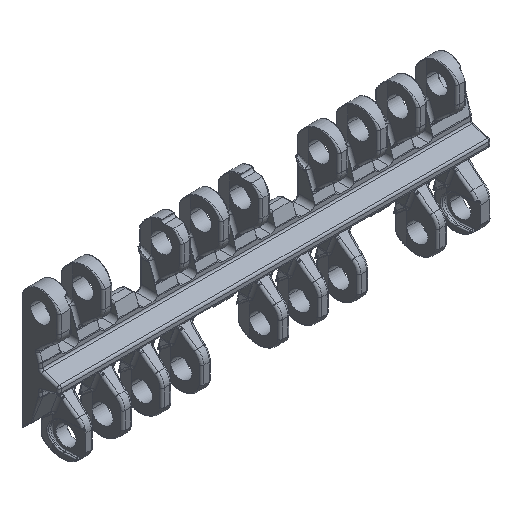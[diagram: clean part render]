
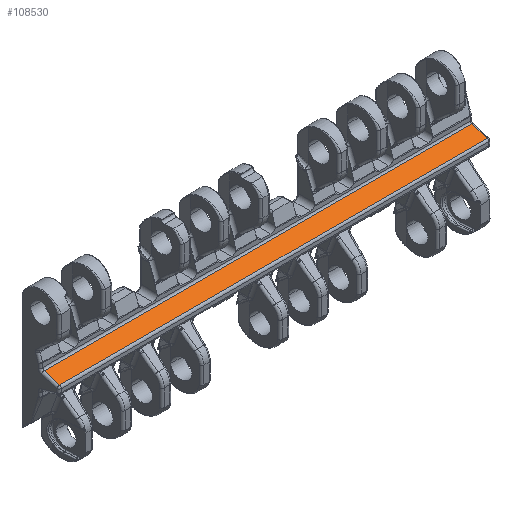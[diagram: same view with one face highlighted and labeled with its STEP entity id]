
A CAD part, isometric view. The second image highlights one B-rep face of the part: STEP entity #108530.
In plain terms, the highlighted planar face has unit normal (0, -0.283, 0.959).
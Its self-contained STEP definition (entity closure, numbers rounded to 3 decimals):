
#17250=DIRECTION('',(-1.,0.,0.));
#17251=VECTOR('',#17250,182.6);
#17252=CARTESIAN_POINT('',(11.5,-0.609,3.67));
#17253=LINE('',#17252,#17251);
#23917=DIRECTION('',(1.,0.,0.));
#23918=VECTOR('',#23917,182.6);
#23919=CARTESIAN_POINT('',(-171.1,-7.233,1.712));
#23920=LINE('',#23919,#23918);
#23940=DIRECTION('',(0.,-0.959,-0.283));
#23941=VECTOR('',#23940,6.908);
#23942=CARTESIAN_POINT('',(-171.1,-0.609,3.67));
#23943=LINE('',#23942,#23941);
#23944=DIRECTION('',(0.,0.959,0.283));
#23945=VECTOR('',#23944,6.908);
#23946=CARTESIAN_POINT('',(11.5,-7.233,1.712));
#23947=LINE('',#23946,#23945);
#42942=CARTESIAN_POINT('',(-171.1,-7.233,1.712));
#42943=VERTEX_POINT('',#42942);
#42944=CARTESIAN_POINT('',(11.5,-7.233,1.712));
#42945=VERTEX_POINT('',#42944);
#42946=CARTESIAN_POINT('',(-171.1,-0.609,3.67));
#42947=VERTEX_POINT('',#42946);
#42948=CARTESIAN_POINT('',(11.5,-0.609,3.67));
#42949=VERTEX_POINT('',#42948);
#108518=CARTESIAN_POINT('',(0.,0.,3.85));
#108519=DIRECTION('',(0.,-0.283,0.959));
#108520=DIRECTION('',(0.,-0.959,-0.283));
#108521=AXIS2_PLACEMENT_3D('',#108518,#108519,#108520);
#108522=PLANE('',#108521);
#108523=ORIENTED_EDGE('',*,*,#108510,.F.);
#108524=ORIENTED_EDGE('',*,*,#82878,.F.);
#108526=ORIENTED_EDGE('',*,*,#108525,.F.);
#108527=ORIENTED_EDGE('',*,*,#108485,.F.);
#108528=EDGE_LOOP('',(#108523,#108524,#108526,#108527));
#108529=FACE_OUTER_BOUND('',#108528,.F.);
#108530=ADVANCED_FACE('',(#108529),#108522,.T.);
#82878=EDGE_CURVE('',#42949,#42947,#17253,.T.);
#108485=EDGE_CURVE('',#42943,#42945,#23920,.T.);
#108510=EDGE_CURVE('',#42947,#42943,#23943,.T.);
#108525=EDGE_CURVE('',#42945,#42949,#23947,.T.);
